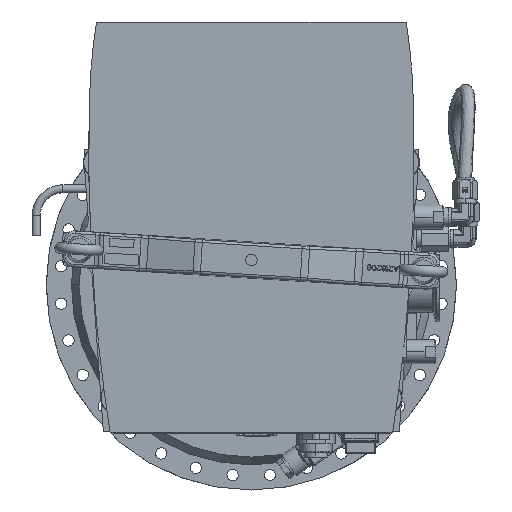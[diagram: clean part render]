
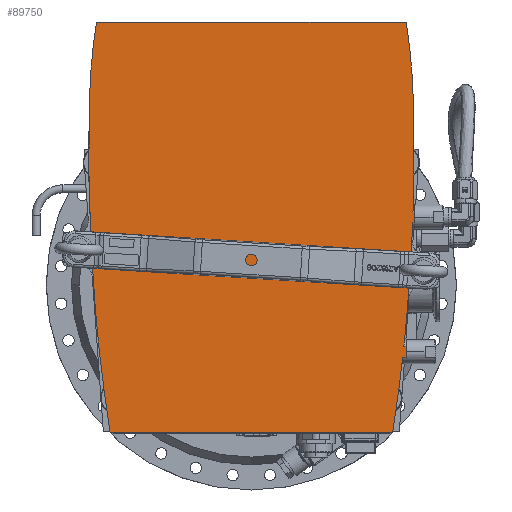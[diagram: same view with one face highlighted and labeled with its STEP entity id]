
A CAD part, front view. The second image highlights one B-rep face of the part: STEP entity #89750.
In plain terms, the highlighted planar face has unit normal (0, -1, 0).
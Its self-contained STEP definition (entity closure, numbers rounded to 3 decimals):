
#8896=CARTESIAN_POINT('',(120.156,-133.95,54.573));
#8906=CARTESIAN_POINT('',(119.869,-133.95,46.327));
#8995=DIRECTION('',(-1.,0.,0.));
#8996=VECTOR('',#8995,1.131);
#8997=CARTESIAN_POINT('',(121.,-133.95,46.327));
#8998=LINE('',#8997,#8996);
#9013=DIRECTION('',(0.,0.,-1.));
#9014=VECTOR('',#9013,8.246);
#9015=CARTESIAN_POINT('',(121.,-133.95,54.573));
#9016=LINE('',#9015,#9014);
#9086=CARTESIAN_POINT('',(-1177.573,-133.95,90.45));
#9087=DIRECTION('',(0.,-1.,0.));
#9088=DIRECTION('',(0.995,0.,-0.105));
#9089=AXIS2_PLACEMENT_3D('',#9086,#9087,#9088);
#9091=DIRECTION('',(-1.,0.,0.));
#9092=VECTOR('',#9091,1.631);
#9093=CARTESIAN_POINT('',(115.,-133.95,-45.427));
#9094=LINE('',#9093,#9092);
#9095=CARTESIAN_POINT('',(-1177.573,-133.95,90.45));
#9096=DIRECTION('',(0.,-1.,0.));
#9097=DIRECTION('',(0.988,0.,-0.154));
#9098=AXIS2_PLACEMENT_3D('',#9095,#9096,#9097);
#9100=CARTESIAN_POINT('',(104.572,-133.95,-109.05));
#9101=DIRECTION('',(0.,-1.,0.));
#9102=DIRECTION('',(0.,0.,-1.));
#9103=AXIS2_PLACEMENT_3D('',#9100,#9101,#9102);
#9105=DIRECTION('',(1.,0.,0.));
#9106=VECTOR('',#9105,209.144);
#9107=CARTESIAN_POINT('',(-104.572,-133.95,-109.55));
#9108=LINE('',#9107,#9106);
#9109=CARTESIAN_POINT('',(-104.572,-133.95,-109.05));
#9110=DIRECTION('',(0.,-1.,0.));
#9111=DIRECTION('',(-0.988,0.,-0.154));
#9112=AXIS2_PLACEMENT_3D('',#9109,#9110,#9111);
#9114=CARTESIAN_POINT('',(1177.573,-133.95,90.45));
#9115=DIRECTION('',(0.,-1.,0.));
#9116=DIRECTION('',(-0.997,0.,-0.084));
#9117=AXIS2_PLACEMENT_3D('',#9114,#9115,#9116);
#9119=CARTESIAN_POINT('',(1281.834,-133.95,99.195));
#9120=DIRECTION('',(0.,-1.,0.));
#9121=DIRECTION('',(-1.,0.,0.028));
#9122=AXIS2_PLACEMENT_3D('',#9119,#9120,#9121);
#9124=CARTESIAN_POINT('',(340.523,-133.95,125.45));
#9125=DIRECTION('',(0.,-1.,0.));
#9126=DIRECTION('',(-0.988,0.,0.152));
#9127=AXIS2_PLACEMENT_3D('',#9124,#9125,#9126);
#9129=DIRECTION('',(-1.,0.,0.));
#9130=VECTOR('',#9129,230.309);
#9131=CARTESIAN_POINT('',(115.155,-133.95,195.45));
#9132=LINE('',#9131,#9130);
#9133=CARTESIAN_POINT('',(-340.523,-133.95,125.45));
#9134=DIRECTION('',(0.,-1.,0.));
#9135=DIRECTION('',(1.,0.,0.028));
#9136=AXIS2_PLACEMENT_3D('',#9133,#9134,#9135);
#9138=CARTESIAN_POINT('',(-1282.134,-133.95,99.203));
#9139=DIRECTION('',(0.,-1.,0.));
#9140=DIRECTION('',(0.999,0.,-0.032));
#9141=AXIS2_PLACEMENT_3D('',#9138,#9139,#9140);
#9143=DIRECTION('',(-1.,0.,0.));
#9144=VECTOR('',#9143,0.844);
#9145=CARTESIAN_POINT('',(121.,-133.95,54.573));
#9146=LINE('',#9145,#9144);
#9147=CARTESIAN_POINT('',(-1282.134,-133.95,99.203));
#9148=DIRECTION('',(0.,-1.,0.));
#9149=DIRECTION('',(0.997,0.,-0.083));
#9150=AXIS2_PLACEMENT_3D('',#9147,#9148,#9149);
#9173=CARTESIAN_POINT('',(113.369,-133.95,-45.427));
#9179=CARTESIAN_POINT('',(112.474,-133.95,-53.673));
#9220=DIRECTION('',(-1.,0.,0.));
#9221=VECTOR('',#9220,2.526);
#9222=CARTESIAN_POINT('',(115.,-133.95,-53.673));
#9223=LINE('',#9222,#9221);
#9315=DIRECTION('',(0.,0.,-1.));
#9316=VECTOR('',#9315,8.246);
#9317=CARTESIAN_POINT('',(115.,-133.95,-45.427));
#9318=LINE('',#9317,#9316);
#75707=CARTESIAN_POINT('',(-115.155,-133.95,195.45));
#75708=CARTESIAN_POINT('',(-120.321,-133.95,138.304));
#75709=VERTEX_POINT('',#75707);
#75710=VERTEX_POINT('',#75708);
#75711=CARTESIAN_POINT('',(-115.958,-133.95,-18.043));
#75712=VERTEX_POINT('',#75711);
#75713=CARTESIAN_POINT('',(-105.066,-133.95,-109.127));
#75714=VERTEX_POINT('',#75713);
#75715=CARTESIAN_POINT('',(-104.572,-133.95,-109.55));
#75716=VERTEX_POINT('',#75715);
#75717=CARTESIAN_POINT('',(104.572,-133.95,-109.55));
#75718=VERTEX_POINT('',#75717);
#75719=CARTESIAN_POINT('',(105.066,-133.95,-109.127));
#75720=VERTEX_POINT('',#75719);
#75721=CARTESIAN_POINT('',(120.321,-133.95,138.296));
#75722=CARTESIAN_POINT('',(115.155,-133.95,195.45));
#75723=VERTEX_POINT('',#75721);
#75724=VERTEX_POINT('',#75722);
#75737=CARTESIAN_POINT('',(115.975,-133.95,-17.837));
#75738=VERTEX_POINT('',#75737);
#75765=CARTESIAN_POINT('',(121.,-133.95,54.573));
#75767=VERTEX_POINT('',#75765);
#75768=CARTESIAN_POINT('',(121.,-133.95,46.327));
#75769=VERTEX_POINT('',#75768);
#75774=VERTEX_POINT('',#8896);
#75775=VERTEX_POINT('',#8906);
#75781=CARTESIAN_POINT('',(115.,-133.95,-45.427));
#75782=CARTESIAN_POINT('',(115.,-133.95,-53.673));
#75783=VERTEX_POINT('',#75781);
#75784=VERTEX_POINT('',#75782);
#75789=VERTEX_POINT('',#9173);
#75790=VERTEX_POINT('',#9179);
#89712=CARTESIAN_POINT('',(0.,-133.95,196.45));
#89713=DIRECTION('',(0.,-1.,0.));
#89714=DIRECTION('',(1.,0.,0.));
#89715=AXIS2_PLACEMENT_3D('',#89712,#89713,#89714);
#89716=PLANE('',#89715);
#89718=ORIENTED_EDGE('',*,*,#89717,.F.);
#89720=ORIENTED_EDGE('',*,*,#89719,.F.);
#89722=ORIENTED_EDGE('',*,*,#89721,.T.);
#89724=ORIENTED_EDGE('',*,*,#89723,.T.);
#89726=ORIENTED_EDGE('',*,*,#89725,.F.);
#89728=ORIENTED_EDGE('',*,*,#89727,.F.);
#89730=ORIENTED_EDGE('',*,*,#89729,.F.);
#89732=ORIENTED_EDGE('',*,*,#89731,.F.);
#89734=ORIENTED_EDGE('',*,*,#89733,.F.);
#89736=ORIENTED_EDGE('',*,*,#89735,.F.);
#89738=ORIENTED_EDGE('',*,*,#89737,.F.);
#89740=ORIENTED_EDGE('',*,*,#89739,.F.);
#89742=ORIENTED_EDGE('',*,*,#89741,.F.);
#89743=ORIENTED_EDGE('',*,*,#89488,.F.);
#89744=ORIENTED_EDGE('',*,*,#89707,.F.);
#89745=ORIENTED_EDGE('',*,*,#89642,.T.);
#89746=ORIENTED_EDGE('',*,*,#89627,.T.);
#89747=ORIENTED_EDGE('',*,*,#89500,.F.);
#89748=EDGE_LOOP('',(#89718,#89720,#89722,#89724,#89726,#89728,#89730,#89732,
#89734,#89736,#89738,#89740,#89742,#89743,#89744,#89745,#89746,#89747));
#89749=FACE_OUTER_BOUND('',#89748,.F.);
#89750=ADVANCED_FACE('',(#89749),#89716,.T.);
#9090=CIRCLE('',#9089,1298.073);
#9099=CIRCLE('',#9098,1298.073);
#9104=CIRCLE('',#9103,0.5);
#9113=CIRCLE('',#9112,0.5);
#9118=CIRCLE('',#9117,1298.073);
#9123=CIRCLE('',#9122,1402.7);
#9128=CIRCLE('',#9127,461.023);
#9137=CIRCLE('',#9136,461.023);
#9142=CIRCLE('',#9141,1403.);
#9151=CIRCLE('',#9150,1403.);
#89488=EDGE_CURVE('',#75774,#75723,#9142,.T.);
#89500=EDGE_CURVE('',#75738,#75775,#9151,.T.);
#89627=EDGE_CURVE('',#75769,#75775,#8998,.T.);
#89642=EDGE_CURVE('',#75767,#75769,#9016,.T.);
#89707=EDGE_CURVE('',#75767,#75774,#9146,.T.);
#89717=EDGE_CURVE('',#75789,#75738,#9090,.T.);
#89719=EDGE_CURVE('',#75783,#75789,#9094,.T.);
#89721=EDGE_CURVE('',#75783,#75784,#9318,.T.);
#89723=EDGE_CURVE('',#75784,#75790,#9223,.T.);
#89725=EDGE_CURVE('',#75720,#75790,#9099,.T.);
#89727=EDGE_CURVE('',#75718,#75720,#9104,.T.);
#89729=EDGE_CURVE('',#75716,#75718,#9108,.T.);
#89731=EDGE_CURVE('',#75714,#75716,#9113,.T.);
#89733=EDGE_CURVE('',#75712,#75714,#9118,.T.);
#89735=EDGE_CURVE('',#75710,#75712,#9123,.T.);
#89737=EDGE_CURVE('',#75709,#75710,#9128,.T.);
#89739=EDGE_CURVE('',#75724,#75709,#9132,.T.);
#89741=EDGE_CURVE('',#75723,#75724,#9137,.T.);
